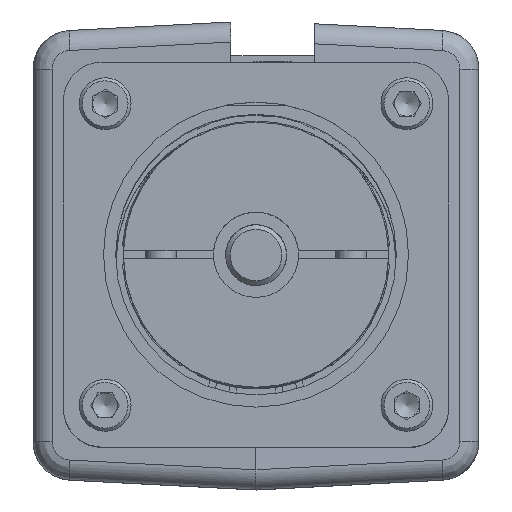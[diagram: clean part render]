
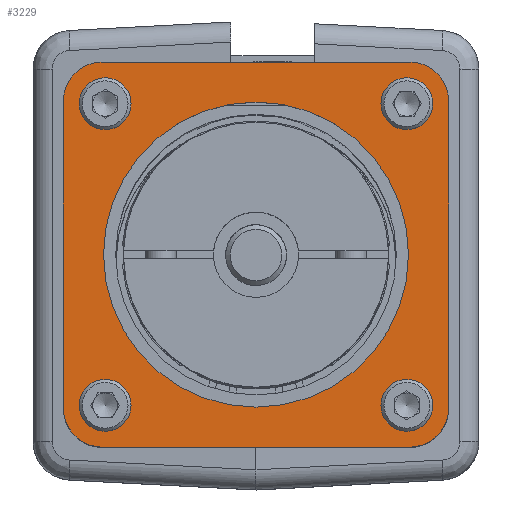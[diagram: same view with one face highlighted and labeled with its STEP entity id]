
A CAD part, top view. The second image highlights one B-rep face of the part: STEP entity #3229.
In plain terms, the highlighted planar face has unit normal (0, 0, 1).
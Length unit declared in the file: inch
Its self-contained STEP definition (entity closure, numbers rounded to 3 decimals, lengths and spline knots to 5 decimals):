
#257 = ORIENTED_EDGE ( 'NONE', *, *, #10015, .T. ) ;
#346 = EDGE_CURVE ( 'NONE', #7959, #7959, #11488, .T. ) ;
#924 = VERTEX_POINT ( 'NONE', #9060 ) ;
#1017 = DIRECTION ( 'NONE',  ( 0., 0., 1. ) ) ;
#1212 = CARTESIAN_POINT ( 'NONE',  ( 1.2436, -0.9936, 4.6701 ) ) ;
#1264 = AXIS2_PLACEMENT_3D ( 'NONE', #8210, #10270, #23910 ) ;
#1653 = CARTESIAN_POINT ( 'NONE',  ( 1.2436, -0.9936, 4.6701 ) ) ;
#1686 = ORIENTED_EDGE ( 'NONE', *, *, #24773, .T. ) ;
#1746 = ORIENTED_EDGE ( 'NONE', *, *, #21919, .T. ) ;
#1895 = CARTESIAN_POINT ( 'NONE',  ( -1.07281, -0.97436, 4.6701 ) ) ;
#2074 = EDGE_CURVE ( 'NONE', #21113, #19371, #2391, .T. ) ;
#2304 = EDGE_LOOP ( 'NONE', ( #13900 ) ) ;
#2391 = CIRCLE ( 'NONE', #5218, 0.25 ) ;
#2600 = FACE_BOUND ( 'NONE', #23507, .T. ) ;
#3229 = ADVANCED_FACE ( 'NONE', ( #23651, #10519, #23521, #6180, #2600, #11938 ), #20191, .F. ) ;
#3744 = AXIS2_PLACEMENT_3D ( 'NONE', #20375, #1017, #18223 ) ;
#4244 = EDGE_CURVE ( 'NONE', #5641, #5641, #14776, .T. ) ;
#4484 = VERTEX_POINT ( 'NONE', #13958 ) ;
#4870 = DIRECTION ( 'NONE',  ( 0., -1., 0. ) ) ;
#4896 = EDGE_LOOP ( 'NONE', ( #5651 ) ) ;
#5114 = CARTESIAN_POINT ( 'NONE',  ( -0.9936, -0.9936, 4.6701 ) ) ;
#5218 = AXIS2_PLACEMENT_3D ( 'NONE', #24397, #22471, #18287 ) ;
#5579 = LINE ( 'NONE', #11334, #7991 ) ;
#5641 = VERTEX_POINT ( 'NONE', #15579 ) ;
#5651 = ORIENTED_EDGE ( 'NONE', *, *, #4244, .F. ) ;
#5720 = EDGE_CURVE ( 'NONE', #11751, #11403, #24128, .T. ) ;
#5753 = DIRECTION ( 'NONE',  ( 1., 0., 0. ) ) ;
#5910 = AXIS2_PLACEMENT_3D ( 'NONE', #5114, #9070, #20671 ) ;
#5939 = CIRCLE ( 'NONE', #8394, 0.09845 ) ;
#6180 = FACE_BOUND ( 'NONE', #13395, .T. ) ;
#6574 = CARTESIAN_POINT ( 'NONE',  ( -0.97436, 0.97436, 4.6701 ) ) ;
#6632 = CARTESIAN_POINT ( 'NONE',  ( 0., 0., 4.6701 ) ) ;
#7824 = AXIS2_PLACEMENT_3D ( 'NONE', #9899, #11309, #15612 ) ;
#7959 = VERTEX_POINT ( 'NONE', #19707 ) ;
#7991 = VECTOR ( 'NONE', #21249, 39.37008 ) ;
#8210 = CARTESIAN_POINT ( 'NONE',  ( -1.875, -1.97326, 4.6701 ) ) ;
#8312 = ORIENTED_EDGE ( 'NONE', *, *, #346, .F. ) ;
#8380 = CARTESIAN_POINT ( 'NONE',  ( -0.97436, -0.97436, 4.6701 ) ) ;
#8394 = AXIS2_PLACEMENT_3D ( 'NONE', #8380, #16402, #23954 ) ;
#9060 = CARTESIAN_POINT ( 'NONE',  ( 1.07281, 0.97436, 4.6701 ) ) ;
#9070 = DIRECTION ( 'NONE',  ( 0., 0., 1. ) ) ;
#9899 = CARTESIAN_POINT ( 'NONE',  ( 0.9936, 0.9936, 4.6701 ) ) ;
#9993 = EDGE_CURVE ( 'NONE', #4484, #4484, #18619, .T. ) ;
#10015 = EDGE_CURVE ( 'NONE', #23774, #21828, #10483, .T. ) ;
#10270 = DIRECTION ( 'NONE',  ( 0., 0., -1. ) ) ;
#10412 = CIRCLE ( 'NONE', #5910, 0.25 ) ;
#10483 = CIRCLE ( 'NONE', #17807, 0.25 ) ;
#10519 = FACE_BOUND ( 'NONE', #4896, .T. ) ;
#10560 = EDGE_CURVE ( 'NONE', #11403, #21113, #22253, .T. ) ;
#11098 = ORIENTED_EDGE ( 'NONE', *, *, #2074, .T. ) ;
#11271 = EDGE_CURVE ( 'NONE', #924, #924, #14548, .T. ) ;
#11309 = DIRECTION ( 'NONE',  ( 0., 0., 1. ) ) ;
#11334 = CARTESIAN_POINT ( 'NONE',  ( -0.9936, -1.2436, 4.6701 ) ) ;
#11403 = VERTEX_POINT ( 'NONE', #16207 ) ;
#11488 = CIRCLE ( 'NONE', #3744, 0.09845 ) ;
#11554 = ORIENTED_EDGE ( 'NONE', *, *, #11271, .F. ) ;
#11751 = VERTEX_POINT ( 'NONE', #21282 ) ;
#11938 = FACE_OUTER_BOUND ( 'NONE', #13800, .T. ) ;
#12223 = DIRECTION ( 'NONE',  ( 0., 1., 0. ) ) ;
#12595 = CARTESIAN_POINT ( 'NONE',  ( 0.9936, 1.2436, 4.6701 ) ) ;
#12955 = VECTOR ( 'NONE', #16894, 39.37008 ) ;
#13395 = EDGE_LOOP ( 'NONE', ( #8312 ) ) ;
#13800 = EDGE_LOOP ( 'NONE', ( #257, #1746, #21323, #13815, #11098, #16151, #22554, #1686 ) ) ;
#13815 = ORIENTED_EDGE ( 'NONE', *, *, #10560, .T. ) ;
#13900 = ORIENTED_EDGE ( 'NONE', *, *, #17477, .F. ) ;
#13958 = CARTESIAN_POINT ( 'NONE',  ( 0., -0.98525, 4.6701 ) ) ;
#14200 = DIRECTION ( 'NONE',  ( 0., 0., 1. ) ) ;
#14434 = DIRECTION ( 'NONE',  ( 0., 0., 1. ) ) ;
#14548 = CIRCLE ( 'NONE', #15740, 0.09845 ) ;
#14776 = CIRCLE ( 'NONE', #22502, 0.09845 ) ;
#15559 = CARTESIAN_POINT ( 'NONE',  ( -1.2436, -0.9936, 4.6701 ) ) ;
#15579 = CARTESIAN_POINT ( 'NONE',  ( -0.97436, 1.07281, 4.6701 ) ) ;
#15612 = DIRECTION ( 'NONE',  ( 0., -1., 0. ) ) ;
#15740 = AXIS2_PLACEMENT_3D ( 'NONE', #25160, #23222, #5753 ) ;
#16032 = VERTEX_POINT ( 'NONE', #15559 ) ;
#16080 = CARTESIAN_POINT ( 'NONE',  ( 0.9936, -0.9936, 4.6701 ) ) ;
#16144 = DIRECTION ( 'NONE',  ( 0., 0., 1. ) ) ;
#16151 = ORIENTED_EDGE ( 'NONE', *, *, #22315, .T. ) ;
#16207 = CARTESIAN_POINT ( 'NONE',  ( 0.9936, 1.2436, 4.6701 ) ) ;
#16402 = DIRECTION ( 'NONE',  ( 0., 0., 1. ) ) ;
#16476 = CARTESIAN_POINT ( 'NONE',  ( -1.2436, 0.9936, 4.6701 ) ) ;
#16625 = ORIENTED_EDGE ( 'NONE', *, *, #9993, .F. ) ;
#16894 = DIRECTION ( 'NONE',  ( -1., 0., 0. ) ) ;
#17477 = EDGE_CURVE ( 'NONE', #23171, #23171, #5939, .T. ) ;
#17807 = AXIS2_PLACEMENT_3D ( 'NONE', #16080, #14200, #21947 ) ;
#18107 = VERTEX_POINT ( 'NONE', #19310 ) ;
#18144 = CARTESIAN_POINT ( 'NONE',  ( -1.2436, 0.9936, 4.6701 ) ) ;
#18223 = DIRECTION ( 'NONE',  ( 0., -1., 0. ) ) ;
#18287 = DIRECTION ( 'NONE',  ( 0., -1., 0. ) ) ;
#18619 = CIRCLE ( 'NONE', #21463, 0.98525 ) ;
#19310 = CARTESIAN_POINT ( 'NONE',  ( -0.9936, -1.2436, 4.6701 ) ) ;
#19371 = VERTEX_POINT ( 'NONE', #16476 ) ;
#19707 = CARTESIAN_POINT ( 'NONE',  ( 0.97436, -1.07281, 4.6701 ) ) ;
#20191 = PLANE ( 'NONE',  #1264 ) ;
#20203 = LINE ( 'NONE', #1212, #23806 ) ;
#20375 = CARTESIAN_POINT ( 'NONE',  ( 0.97436, -0.97436, 4.6701 ) ) ;
#20671 = DIRECTION ( 'NONE',  ( 0., -1., 0. ) ) ;
#21113 = VERTEX_POINT ( 'NONE', #21960 ) ;
#21249 = DIRECTION ( 'NONE',  ( 1., 0., 0. ) ) ;
#21282 = CARTESIAN_POINT ( 'NONE',  ( 1.2436, 0.9936, 4.6701 ) ) ;
#21323 = ORIENTED_EDGE ( 'NONE', *, *, #5720, .T. ) ;
#21463 = AXIS2_PLACEMENT_3D ( 'NONE', #6632, #14434, #22191 ) ;
#21828 = VERTEX_POINT ( 'NONE', #1653 ) ;
#21905 = EDGE_LOOP ( 'NONE', ( #11554 ) ) ;
#21919 = EDGE_CURVE ( 'NONE', #21828, #11751, #20203, .T. ) ;
#21947 = DIRECTION ( 'NONE',  ( 0., 1., 0. ) ) ;
#21960 = CARTESIAN_POINT ( 'NONE',  ( -0.9936, 1.2436, 4.6701 ) ) ;
#22191 = DIRECTION ( 'NONE',  ( 0., -1., 0. ) ) ;
#22253 = LINE ( 'NONE', #12595, #12955 ) ;
#22315 = EDGE_CURVE ( 'NONE', #19371, #16032, #23891, .T. ) ;
#22471 = DIRECTION ( 'NONE',  ( 0., 0., 1. ) ) ;
#22502 = AXIS2_PLACEMENT_3D ( 'NONE', #6574, #16144, #12223 ) ;
#22509 = EDGE_CURVE ( 'NONE', #16032, #18107, #10412, .T. ) ;
#22554 = ORIENTED_EDGE ( 'NONE', *, *, #22509, .T. ) ;
#23171 = VERTEX_POINT ( 'NONE', #1895 ) ;
#23222 = DIRECTION ( 'NONE',  ( 0., 0., 1. ) ) ;
#23403 = VECTOR ( 'NONE', #4870, 39.37008 ) ;
#23507 = EDGE_LOOP ( 'NONE', ( #16625 ) ) ;
#23521 = FACE_BOUND ( 'NONE', #21905, .T. ) ;
#23651 = FACE_BOUND ( 'NONE', #2304, .T. ) ;
#23774 = VERTEX_POINT ( 'NONE', #24666 ) ;
#23806 = VECTOR ( 'NONE', #24286, 39.37008 ) ;
#23891 = LINE ( 'NONE', #18144, #23403 ) ;
#23910 = DIRECTION ( 'NONE',  ( 0., 1., 0. ) ) ;
#23954 = DIRECTION ( 'NONE',  ( -1., 0., 0. ) ) ;
#24128 = CIRCLE ( 'NONE', #7824, 0.25 ) ;
#24286 = DIRECTION ( 'NONE',  ( 0., 1., 0. ) ) ;
#24397 = CARTESIAN_POINT ( 'NONE',  ( -0.9936, 0.9936, 4.6701 ) ) ;
#24666 = CARTESIAN_POINT ( 'NONE',  ( 0.9936, -1.2436, 4.6701 ) ) ;
#24773 = EDGE_CURVE ( 'NONE', #18107, #23774, #5579, .T. ) ;
#25160 = CARTESIAN_POINT ( 'NONE',  ( 0.97436, 0.97436, 4.6701 ) ) ;
